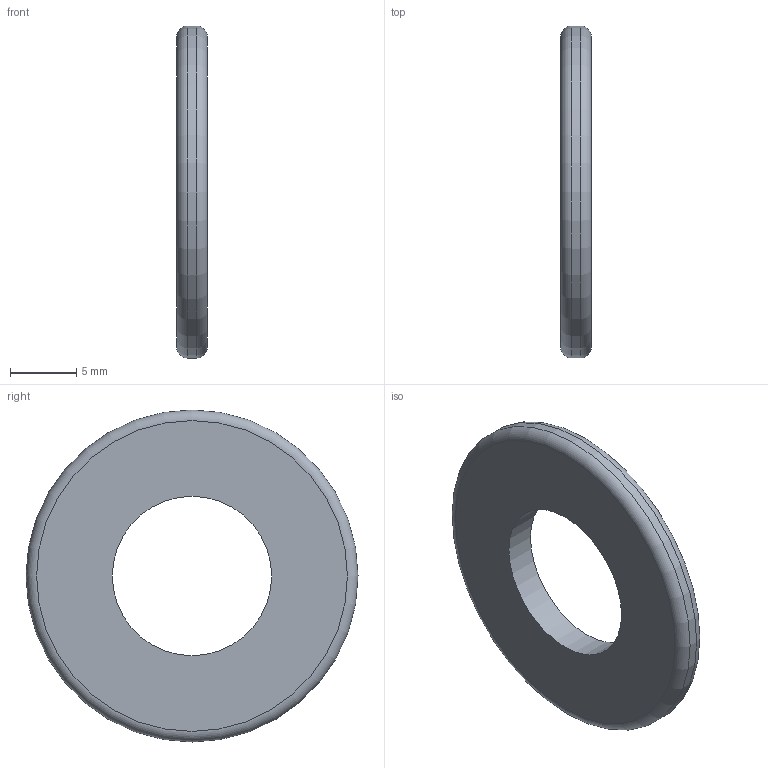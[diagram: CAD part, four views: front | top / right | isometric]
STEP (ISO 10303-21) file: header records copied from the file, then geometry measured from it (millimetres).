
FILE_DESCRIPTION(('Open CASCADE Model'),'2;1');
FILE_NAME('Open CASCADE Shape Model','2026-11-11T21:42:22',('Author'),( 'Open CASCADE'),'Open CASCADE STEP processor 8.0','build123d', 'Unknown');
FILE_SCHEMA(('AUTOMOTIVE_DESIGN { 1 0 10303 214 1 1 1 1 }'));
Length unit declared in the file: millimetre
Products named in the file (1): SOLID
Bounding box: 2.3 x 25 x 25 mm (x, y, z)
Volume: 847.6 mm3; surface area: 968.4 mm2
Topology: 1 solids, 1 shells, 6 faces, 10 edges, 6 vertices
Faces by surface type: cylinder 2, torus 2, plane 2
Full cylindrical faces by diameter (mm): 12 x1, 25 x1
Entity records: 286 total; most frequent: DIRECTION 48, CARTESIAN_POINT 47, ORIENTED_EDGE 20, PCURVE 20, DEFINITIONAL_REPRESENTATION 20, AXIS2_PLACEMENT_3D 15, LINE 14, VECTOR 14
